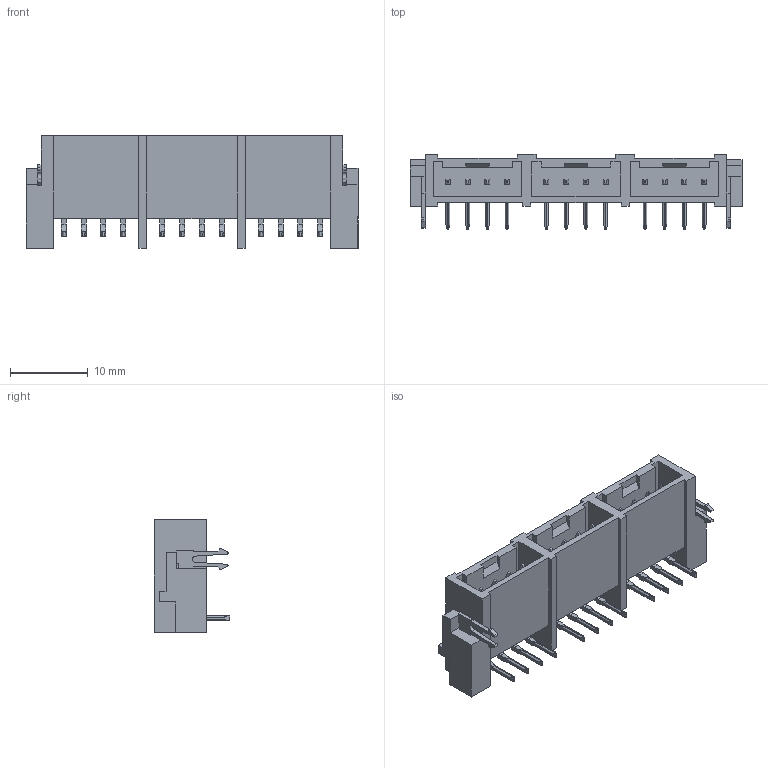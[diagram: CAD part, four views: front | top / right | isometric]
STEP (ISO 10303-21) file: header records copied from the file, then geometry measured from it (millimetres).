
FILE_DESCRIPTION (( 'STEP AP203' ), '1' );
FILE_NAME ('232D-12P1X-L15A-FA.STEP', '2022-03-02T09:44:03', ( '' ), ( '' ), 'SwSTEP 2.0', 'SolidWorks 2018', '' );
FILE_SCHEMA (( 'CONFIG_CONTROL_DESIGN' ));
Length unit declared in the file: millimetre
Products named in the file (1): 232D-12P1X-L15A-FA
Bounding box: 42.8 x 9.7 x 14.5 mm (x, y, z)
Volume: 1706.4 mm3; surface area: 2970.3 mm2
Topology: 1 solids, 1 shells, 584 faces, 1676 edges, 1116 vertices
Faces by surface type: plane 434, cylinder 150
Entity records: 19277 total; most frequent: CARTESIAN_POINT 4385, ORIENTED_EDGE 3352, DIRECTION 2762, EDGE_CURVE 1676, LINE 1280, VECTOR 1280, VERTEX_POINT 1116, AXIS2_PLACEMENT_3D 741
